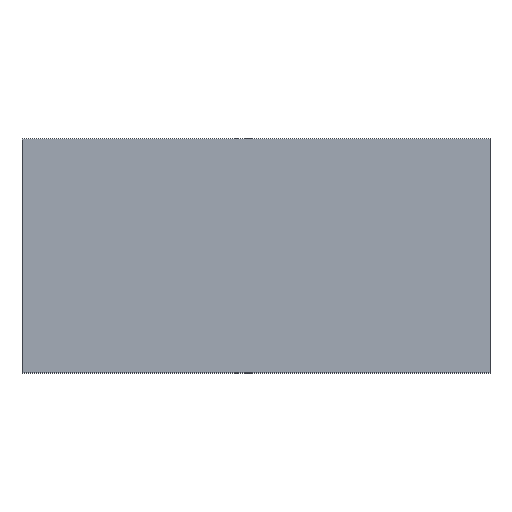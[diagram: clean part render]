
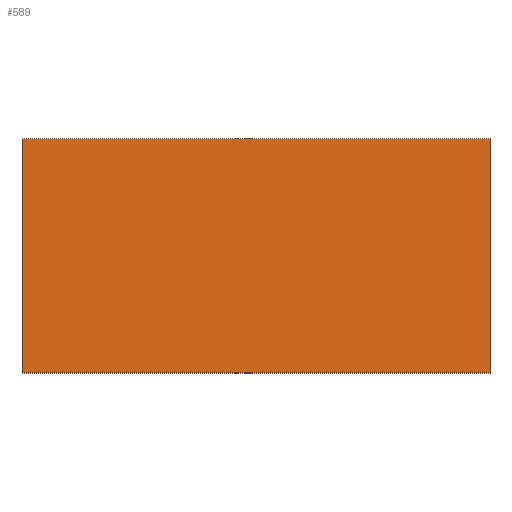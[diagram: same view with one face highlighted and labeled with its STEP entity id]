
A CAD part, top view. The second image highlights one B-rep face of the part: STEP entity #589.
In plain terms, the highlighted planar face has unit normal (0, 0, 1).
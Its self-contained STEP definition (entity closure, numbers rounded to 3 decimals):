
#589=ADVANCED_FACE($,(#825),#3043,.T.);
#825=FACE_OUTER_BOUND($,#1061,.T.);
#1061=EDGE_LOOP($,(#1348,#1349,#1350,#1351));
#1348=ORIENTED_EDGE($,*,*,#2283,.F.);
#1349=ORIENTED_EDGE($,*,*,#2282,.F.);
#1350=ORIENTED_EDGE($,*,*,#2281,.F.);
#1351=ORIENTED_EDGE($,*,*,#2280,.F.);
#2280=EDGE_CURVE($,#2754,#2755,#3116,.T.);
#2281=EDGE_CURVE($,#2755,#2756,#3117,.T.);
#2282=EDGE_CURVE($,#2756,#2757,#3118,.T.);
#2283=EDGE_CURVE($,#2757,#2754,#3119,.T.);
#2754=VERTEX_POINT($,#3526);
#2755=VERTEX_POINT($,#3527);
#2756=VERTEX_POINT($,#3528);
#2757=VERTEX_POINT($,#3529);
#3043=PLANE($,#3343);
#3116=B_SPLINE_CURVE_WITH_KNOTS($,1,(#3500,#3501),.UNSPECIFIED.,.F.,.F.,
(2,2),(0.,1000.),.UNSPECIFIED.);
#3117=B_SPLINE_CURVE_WITH_KNOTS($,1,(#3502,#3503),.UNSPECIFIED.,.F.,.F.,
(2,2),(0.,2000.),.UNSPECIFIED.);
#3118=B_SPLINE_CURVE_WITH_KNOTS($,1,(#3504,#3505),.UNSPECIFIED.,.F.,.F.,
(2,2),(0.,1000.),.UNSPECIFIED.);
#3119=B_SPLINE_CURVE_WITH_KNOTS($,1,(#3506,#3507),.UNSPECIFIED.,.F.,.F.,
(2,2),(0.,2000.),.UNSPECIFIED.);
#3343=AXIS2_PLACEMENT_3D($,#3521,#3420,$);
#3420=DIRECTION($,(0.,0.,1.));
#3500=CARTESIAN_POINT($,(50.,50.,745.));
#3501=CARTESIAN_POINT($,(50.,1050.,745.));
#3502=CARTESIAN_POINT($,(50.,1050.,745.));
#3503=CARTESIAN_POINT($,(2050.,1050.,745.));
#3504=CARTESIAN_POINT($,(2050.,1050.,745.));
#3505=CARTESIAN_POINT($,(2050.,50.,745.));
#3506=CARTESIAN_POINT($,(2050.,50.,745.));
#3507=CARTESIAN_POINT($,(50.,50.,745.));
#3521=CARTESIAN_POINT($,(50.,50.,745.));
#3526=CARTESIAN_POINT($,(50.,50.,745.));
#3527=CARTESIAN_POINT($,(50.,1050.,745.));
#3528=CARTESIAN_POINT($,(2050.,1050.,745.));
#3529=CARTESIAN_POINT($,(2050.,50.,745.));
